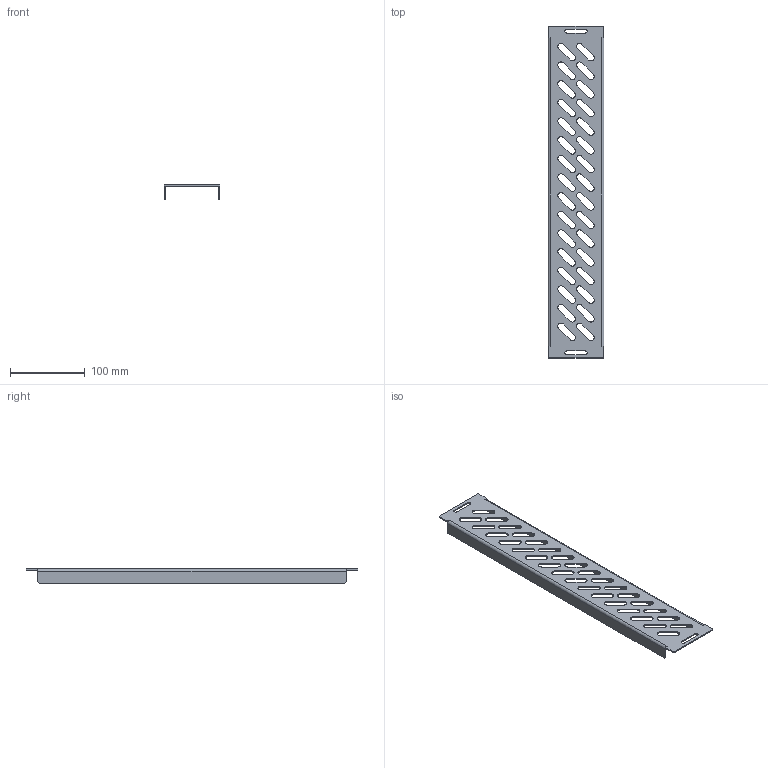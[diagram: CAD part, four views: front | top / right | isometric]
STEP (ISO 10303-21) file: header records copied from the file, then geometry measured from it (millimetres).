
FILE_DESCRIPTION(('STEP AP203'), '1');
FILE_NAME('3007 Ïàíåëü íà äíî ïîäâèæíàÿ', '', ('UNSPECIFIED'), ('UNSPECIFIED'), 'C3D Converter', 'C3D Toolkit', '');
FILE_SCHEMA(('CONFIG_CONTROL_DESIGN'));
Length unit declared in the file: millimetre
Products named in the file (1): 3007.60.75.П
Bounding box: 75 x 445 x 19 mm (x, y, z)
Volume: 58335 mm3; surface area: 83011.3 mm2
Topology: 1 solids, 1 shells, 182 faces, 524 edges, 344 vertices
Faces by surface type: plane 94, cylinder 88
Entity records: 6172 total; most frequent: DIRECTION 1066, CARTESIAN_POINT 1051, ORIENTED_EDGE 1048, EDGE_CURVE 524, AXIS2_PLACEMENT_3D 359, LINE 348, VECTOR 348, VERTEX_POINT 344
